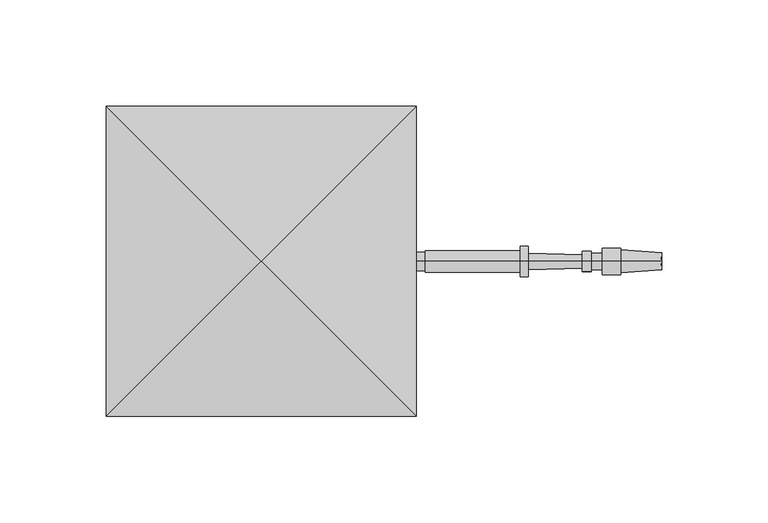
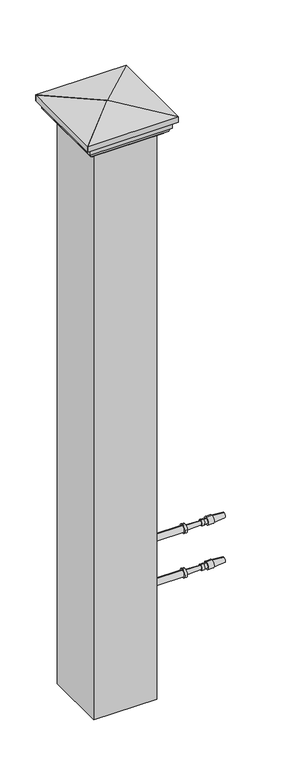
"""IFC4 building model written with IfcOpenShell, lengths in millimetres: railing geometry, RAILEASY CABLE RAILING CORNER TENSIONERS STAIR."""

from ifc_helpers import new_model, si_unit, point, frame, origin, place, context, project, spatial, polyline, circle_curve, ellipse_curve, trimmed, outline, extrude, source, transform, mapped, element, save
from ifc_brep_helpers import plane_surface, cylinder_surface, revolved_surface, advanced_brep


def railing_2a3e4459(model_context):
    return source(origin(), model_context, "Body", "SolidModel", [
        advanced_brep(
        [(1822.6288256, 16706.2866843, 32759.0282881), (1822.6288256, 16706.2866843, 32766.1720381), (1822.6288256, 16706.2866843, 32762.6001631), (1947.5727148, 16706.2866843, 32762.6001631), (1947.8683792, 16706.2866843, 32766.6246235), (1947.8683792, 16706.2866843, 32758.5757028), (1928.5250152, 16706.2866843, 32768.045719), (1928.5250152, 16706.2866843, 32757.1546072), (1928.5250152, 16706.2866843, 32768.9386877), (1928.5250152, 16706.2866843, 32756.2616385), (1919.892984, 16706.2866843, 32768.9386877), (1919.892984, 16706.2866843, 32756.2616385), (1919.892984, 16706.2866843, 32766.5574377), (1919.892984, 16706.2866843, 32758.6428885), (1914.5351715, 16706.2866843, 32766.5574377), (1914.5351715, 16706.2866843, 32758.6428885), (1914.5351715, 16706.2866843, 32767.3511877), (1914.5351715, 16706.2866843, 32757.8491385), (1910.4672027, 16706.2866843, 32767.3511877), (1910.4672027, 16706.2866843, 32757.8491385), (1910.4231156, 16706.2866843, 32765.7643), (1910.4231156, 16706.2866843, 32759.4360262), (1885.0329124, 16706.2866843, 32766.4696944), (1885.0329124, 16706.2866843, 32758.7306319), (1885.0329124, 16706.2866843, 32769.7439131), (1885.0329124, 16706.2866843, 32755.4564131), (1881.0641624, 16706.2866843, 32769.7439131), (1881.0641624, 16706.2866843, 32755.4564131), (1881.0641624, 16706.2866843, 32767.7595381), (1881.0641624, 16706.2866843, 32757.4407881), (1836.3165061, 16706.2866843, 32767.7595381), (1836.3165061, 16706.2866843, 32757.4407881), (1836.3165061, 16706.2866843, 32766.9657881), (1836.3165061, 16706.2866843, 32758.2345381), (1829.9665061, 16706.2866843, 32766.9657881), (1829.9665061, 16706.2866843, 32758.2345381), (1829.9665061, 16706.2866843, 32766.1720381), (1829.9665061, 16706.2866843, 32759.0282881)],
        [
            (0, 1, circle_curve(frame((1822.6288256, 16706.2866843, 32762.6001631), z_axis=(-1.0, 0.0, 0.0), x_axis=(0.0, 0.0, 1.0000000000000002)), 3.571875)),
            (1, 2),
            (2, 0),
            (1, 0, circle_curve(frame((1822.6288256, 16706.2866843, 32762.6001631), z_axis=(-1.0, 0.0, 0.0), x_axis=(0.0, 0.0, 1.0000000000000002)), 3.571875)),
            (3, 4),
            (4, 5, circle_curve(frame((1947.8683792, 16706.2866843, 32762.6001631), z_axis=(1.0, 0.0, 0.0), x_axis=(0.0, 0.0, 1.0000000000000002)), 4.0244604)),
            (5, 3),
            (5, 4, circle_curve(frame((1947.8683792, 16706.2866843, 32762.6001631), z_axis=(1.0, 0.0, 0.0), x_axis=(0.0, 0.0, 1.0000000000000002)), 4.0244604)),
            (4, 6),
            (6, 7, circle_curve(frame((1928.5250152, 16706.2866843, 32762.6001631), z_axis=(1.0, 0.0, 0.0), x_axis=(0.0, 0.0, 1.0000000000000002)), 5.4455559)),
            (7, 5),
            (7, 6, circle_curve(frame((1928.5250152, 16706.2866843, 32762.6001631), z_axis=(1.0, 0.0, 0.0), x_axis=(0.0, 0.0, 1.0000000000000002)), 5.4455559)),
            (6, 8),
            (8, 9, circle_curve(frame((1928.5250152, 16706.2866843, 32762.6001631), z_axis=(1.0, 0.0, 0.0), x_axis=(0.0, 0.0, 1.0000000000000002)), 6.3385246)),
            (9, 7),
            (9, 8, circle_curve(frame((1928.5250152, 16706.2866843, 32762.6001631), z_axis=(1.0, 0.0, 0.0), x_axis=(0.0, 0.0, 1.0000000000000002)), 6.3385246)),
            (8, 10),
            (10, 11, circle_curve(frame((1919.892984, 16706.2866843, 32762.6001631), z_axis=(1.0, 0.0, 0.0), x_axis=(0.0, 0.0, 1.0000000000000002)), 6.3385246)),
            (11, 9),
            (11, 10, circle_curve(frame((1919.892984, 16706.2866843, 32762.6001631), z_axis=(1.0, 0.0, 0.0), x_axis=(0.0, 0.0, 1.0000000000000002)), 6.3385246)),
            (10, 12),
            (12, 13, circle_curve(frame((1919.892984, 16706.2866843, 32762.6001631), z_axis=(1.0, 0.0, 0.0), x_axis=(0.0, 0.0, 1.0000000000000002)), 3.9572746)),
            (13, 11),
            (13, 12, circle_curve(frame((1919.892984, 16706.2866843, 32762.6001631), z_axis=(1.0, 0.0, 0.0), x_axis=(0.0, 0.0, 1.0000000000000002)), 3.9572746)),
            (12, 14),
            (14, 15, circle_curve(frame((1914.5351715, 16706.2866843, 32762.6001631), z_axis=(1.0, 0.0, 0.0), x_axis=(0.0, 0.0, 1.0000000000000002)), 3.9572746)),
            (15, 13),
            (15, 14, circle_curve(frame((1914.5351715, 16706.2866843, 32762.6001631), z_axis=(1.0, 0.0, 0.0), x_axis=(0.0, 0.0, 1.0000000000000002)), 3.9572746)),
            (14, 16),
            (16, 17, circle_curve(frame((1914.5351715, 16706.2866843, 32762.6001631), z_axis=(1.0, 0.0, 0.0), x_axis=(0.0, 0.0, 1.0000000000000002)), 4.7510246)),
            (17, 15),
            (17, 16, circle_curve(frame((1914.5351715, 16706.2866843, 32762.6001631), z_axis=(1.0, 0.0, 0.0), x_axis=(0.0, 0.0, 1.0000000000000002)), 4.7510246)),
            (16, 18),
            (18, 19, circle_curve(frame((1910.4672027, 16706.2866843, 32762.6001631), z_axis=(1.0, 0.0, 0.0), x_axis=(0.0, 0.0, 1.0000000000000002)), 4.7510246)),
            (19, 17),
            (19, 18, circle_curve(frame((1910.4672027, 16706.2866843, 32762.6001631), z_axis=(1.0, 0.0, 0.0), x_axis=(0.0, 0.0, 1.0000000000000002)), 4.7510246)),
            (18, 20),
            (20, 21, circle_curve(frame((1910.4231156, 16706.2866843, 32762.6001631), z_axis=(1.0, 0.0, 0.0), x_axis=(0.0, 0.0, 1.0000000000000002)), 3.1641369)),
            (21, 19),
            (21, 20, circle_curve(frame((1910.4231156, 16706.2866843, 32762.6001631), z_axis=(1.0, 0.0, 0.0), x_axis=(0.0, 0.0, 1.0000000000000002)), 3.1641369)),
            (20, 22),
            (22, 23, circle_curve(frame((1885.0329124, 16706.2866843, 32762.6001631), z_axis=(1.0, 0.0, 0.0), x_axis=(0.0, 0.0, 1.0000000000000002)), 3.8695313)),
            (23, 21),
            (23, 22, circle_curve(frame((1885.0329124, 16706.2866843, 32762.6001631), z_axis=(1.0, 0.0, 0.0), x_axis=(0.0, 0.0, 1.0000000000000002)), 3.8695313)),
            (22, 24),
            (24, 25, circle_curve(frame((1885.0329124, 16706.2866843, 32762.6001631), z_axis=(1.0, 0.0, 0.0), x_axis=(0.0, 0.0, 1.0000000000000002)), 7.14375)),
            (25, 23),
            (25, 24, circle_curve(frame((1885.0329124, 16706.2866843, 32762.6001631), z_axis=(1.0, 0.0, 0.0), x_axis=(0.0, 0.0, 1.0000000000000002)), 7.14375)),
            (24, 26),
            (26, 27, circle_curve(frame((1881.0641624, 16706.2866843, 32762.6001631), z_axis=(1.0, 0.0, 0.0), x_axis=(0.0, 0.0, 1.0000000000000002)), 7.14375)),
            (27, 25),
            (27, 26, circle_curve(frame((1881.0641624, 16706.2866843, 32762.6001631), z_axis=(1.0, 0.0, 0.0), x_axis=(0.0, 0.0, 1.0000000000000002)), 7.14375)),
            (26, 28),
            (28, 29, circle_curve(frame((1881.0641624, 16706.2866843, 32762.6001631), z_axis=(1.0, 0.0, 0.0), x_axis=(0.0, 0.0, 1.0000000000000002)), 5.159375)),
            (29, 27),
            (29, 28, circle_curve(frame((1881.0641624, 16706.2866843, 32762.6001631), z_axis=(1.0, 0.0, 0.0), x_axis=(0.0, 0.0, 1.0000000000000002)), 5.159375)),
            (28, 30),
            (30, 31, circle_curve(frame((1836.3165061, 16706.2866843, 32762.6001631), z_axis=(1.0, 0.0, 0.0), x_axis=(0.0, 0.0, 1.0000000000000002)), 5.159375)),
            (31, 29),
            (31, 30, circle_curve(frame((1836.3165061, 16706.2866843, 32762.6001631), z_axis=(1.0, 0.0, 0.0), x_axis=(0.0, 0.0, 1.0000000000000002)), 5.159375)),
            (30, 32),
            (32, 33, circle_curve(frame((1836.3165061, 16706.2866843, 32762.6001631), z_axis=(1.0, 0.0, 0.0), x_axis=(0.0, 0.0, 1.0000000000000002)), 4.365625)),
            (33, 31),
            (33, 32, circle_curve(frame((1836.3165061, 16706.2866843, 32762.6001631), z_axis=(1.0, 0.0, 0.0), x_axis=(0.0, 0.0, 1.0000000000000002)), 4.365625)),
            (32, 34),
            (34, 35, circle_curve(frame((1829.9665061, 16706.2866843, 32762.6001631), z_axis=(1.0, 0.0, 0.0), x_axis=(0.0, 0.0, 1.0000000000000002)), 4.365625)),
            (35, 33),
            (35, 34, circle_curve(frame((1829.9665061, 16706.2866843, 32762.6001631), z_axis=(1.0, 0.0, 0.0), x_axis=(0.0, 0.0, 1.0000000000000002)), 4.365625)),
            (34, 36),
            (36, 37, circle_curve(frame((1829.9665061, 16706.2866843, 32762.6001631), z_axis=(1.0, 0.0, 0.0), x_axis=(0.0, 0.0, 1.0000000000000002)), 3.571875)),
            (37, 35),
            (37, 36, circle_curve(frame((1829.9665061, 16706.2866843, 32762.6001631), z_axis=(1.0, 0.0, 0.0), x_axis=(0.0, 0.0, 1.0000000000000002)), 3.571875)),
            (36, 1),
            (0, 37),
        ],
        [
            plane_surface(frame((1822.6288256, 16706.2866843, 32762.6001631), z_axis=(-1.0, 0.0, 0.0), x_axis=(0.0, 0.0, 1.0))),
            revolved_surface(polyline([(1947.8683792, 16706.2866843, 32766.6246235), (1947.5727148, 16706.2866843, 32762.6001631)]), (1947.5727148, 16706.2866843, 32762.6001631), (1.0, 0.0, 0.0)),
            revolved_surface(polyline([(1928.5250152, 16706.2866843, 32768.045719), (1947.8683792, 16706.2866843, 32766.6246235)]), (1947.5727148, 16706.2866843, 32762.6001631), (1.0, 0.0, 0.0)),
            plane_surface(frame((1928.5250152, 16706.2866843, 32762.6001631), z_axis=(1.0, 0.0, 0.0), x_axis=(0.0, 0.0, 1.0))),
            cylinder_surface(frame((1947.5727148, 16706.2866843, 32762.6001631), z_axis=(1.0, 0.0, 0.0), x_axis=(0.0, 0.0, 1.0000000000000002)), 6.3385246),
            plane_surface(frame((1919.892984, 16706.2866843, 32762.6001631), z_axis=(-1.0, 0.0, 0.0), x_axis=(0.0, 0.0, 1.0))),
            cylinder_surface(frame((1947.5727148, 16706.2866843, 32762.6001631), z_axis=(1.0, 0.0, 0.0), x_axis=(0.0, 0.0, 1.0000000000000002)), 3.9572746),
            plane_surface(frame((1914.5351715, 16706.2866843, 32762.6001631), z_axis=(1.0, 0.0, 0.0), x_axis=(0.0, 0.0, 1.0))),
            cylinder_surface(frame((1947.5727148, 16706.2866843, 32762.6001631), z_axis=(1.0, 0.0, 0.0), x_axis=(0.0, 0.0, 1.0000000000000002)), 4.7510246),
            plane_surface(frame((1910.4231156, 16706.2866843, 32762.6001631), z_axis=(-1.0, 0.0, 0.0), x_axis=(0.0, 0.0, 1.0))),
            revolved_surface(polyline([(1885.0329124, 16706.2866843, 32766.4696944), (1910.4231156, 16706.2866843, 32765.7643)]), (1947.5727148, 16706.2866843, 32762.6001631), (1.0, 0.0, 0.0)),
            plane_surface(frame((1885.0329124, 16706.2866843, 32762.6001631), z_axis=(1.0, 0.0, 0.0), x_axis=(0.0, 0.0, 1.0))),
            cylinder_surface(frame((1947.5727148, 16706.2866843, 32762.6001631), z_axis=(1.0, 0.0, 0.0), x_axis=(0.0, 0.0, 1.0000000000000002)), 7.14375),
            plane_surface(frame((1881.0641624, 16706.2866843, 32762.6001631), z_axis=(-1.0, 0.0, 0.0), x_axis=(0.0, 0.0, 1.0))),
            cylinder_surface(frame((1947.5727148, 16706.2866843, 32762.6001631), z_axis=(1.0, 0.0, 0.0), x_axis=(0.0, 0.0, 1.0000000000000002)), 5.159375),
            plane_surface(frame((1836.3165061, 16706.2866843, 32762.6001631), z_axis=(-1.0, 0.0, 0.0), x_axis=(0.0, 0.0, 1.0))),
            cylinder_surface(frame((1947.5727148, 16706.2866843, 32762.6001631), z_axis=(1.0, 0.0, 0.0), x_axis=(0.0, 0.0, 1.0000000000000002)), 4.365625),
            plane_surface(frame((1829.9665061, 16706.2866843, 32762.6001631), z_axis=(-1.0, 0.0, 0.0), x_axis=(0.0, 0.0, 1.0))),
            cylinder_surface(frame((1947.5727148, 16706.2866843, 32762.6001631), z_axis=(1.0, 0.0, 0.0), x_axis=(0.0, 0.0, 1.0000000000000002)), 3.571875),
        ],
        [
            (0, [[1, 2, 3]]),
            (0, [[4, -3, -2]]),
            (1, [[5, 6, 7]]),
            (1, [[-7, 8, -5]]),
            (2, [[-6, 9, 10, 11]]),
            (2, [[-8, -11, 12, -9]]),
            (3, [[-10, 13, 14, 15]]),
            (3, [[-12, -15, 16, -13]]),
            (4, [[-14, 17, 18, 19]]),
            (4, [[-16, -19, 20, -17]]),
            (5, [[-18, 21, 22, 23]]),
            (5, [[-20, -23, 24, -21]]),
            (6, [[-22, 25, 26, 27]]),
            (6, [[-24, -27, 28, -25]]),
            (7, [[-26, 29, 30, 31]]),
            (7, [[-28, -31, 32, -29]]),
            (8, [[-30, 33, 34, 35]]),
            (8, [[-32, -35, 36, -33]]),
            (9, [[-34, 37, 38, 39]]),
            (9, [[-36, -39, 40, -37]]),
            (10, [[-38, 41, 42, 43]]),
            (10, [[-40, -43, 44, -41]]),
            (11, [[-42, 45, 46, 47]]),
            (11, [[-44, -47, 48, -45]]),
            (12, [[-46, 49, 50, 51]]),
            (12, [[-48, -51, 52, -49]]),
            (13, [[-50, 53, 54, 55]]),
            (13, [[-52, -55, 56, -53]]),
            (14, [[-54, 57, 58, 59]]),
            (14, [[-56, -59, 60, -57]]),
            (15, [[-58, 61, 62, 63]]),
            (15, [[-60, -63, 64, -61]]),
            (16, [[-62, 65, 66, 67]]),
            (16, [[-64, -67, 68, -65]]),
            (17, [[-66, 69, 70, 71]]),
            (17, [[-68, -71, 72, -69]]),
            (18, [[-70, 73, -1, 74]]),
            (18, [[-72, -74, -4, -73]]),
        ],
    ),
        advanced_brep(
        [(1809.936189, 16706.2866843, 32686.4001631), (1809.936189, 16706.2866843, 32667.3501631), (1809.936189, 16706.2866843, 32705.4501631), (1822.6288256, 16706.2866843, 32680.8769785), (1822.6288256, 16706.2866843, 32686.4001631), (1822.6288256, 16706.2866843, 32691.9233478), (1817.3527292, 16706.2866843, 32677.2720381), (1817.3527292, 16706.2866843, 32695.5282881), (1812.9871042, 16706.2866843, 32671.6458254), (1812.9871042, 16706.2866843, 32701.1545009), (1812.9871042, 16706.2866843, 32667.7762941), (1812.9871042, 16706.2866843, 32705.0240321), (1812.317439, 16706.2866843, 32667.3501631), (1812.317439, 16706.2866843, 32705.4501631)],
        [
            (0, 1),
            (1, 2, circle_curve(frame((1809.936189, 16706.2866843, 32686.4001631), z_axis=(-1.0, 0.0, 0.0), x_axis=(0.0, 0.0, 1.0)), 19.05)),
            (2, 0),
            (2, 1, circle_curve(frame((1809.936189, 16706.2866843, 32686.4001631), z_axis=(-1.0, 0.0, 0.0), x_axis=(0.0, 0.0, 1.0)), 19.05)),
            (3, 4),
            (4, 5),
            (5, 3, circle_curve(frame((1822.6288256, 16706.2866843, 32686.4001631), z_axis=(1.0, 0.0, 0.0), x_axis=(0.0, 0.0, 1.0)), 5.5231846)),
            (3, 5, circle_curve(frame((1822.6288256, 16706.2866843, 32686.4001631), z_axis=(1.0, 0.0, 0.0), x_axis=(0.0, 0.0, 1.0)), 5.5231846)),
            (6, 3, circle_curve(frame((1815.0283205, 16706.2866843, 32686.3374304), z_axis=(0.0, -1.0, 0.0), x_axis=(1.0, 0.0, 0.0)), 9.3586438)),
            (5, 7, circle_curve(frame((1815.0283205, 16706.2866843, 32686.4628958), z_axis=(0.0, -1.0, 0.0), x_axis=(1.0, 0.0, 0.0)), 9.3586438)),
            (7, 6, circle_curve(frame((1817.3527292, 16706.2866843, 32686.4001631), z_axis=(1.0, 0.0, 0.0), x_axis=(0.0, 0.0, 1.0)), 9.128125)),
            (6, 7, circle_curve(frame((1817.3527292, 16706.2866843, 32686.4001631), z_axis=(1.0, 0.0, 0.0), x_axis=(0.0, 0.0, 1.0)), 9.128125)),
            (8, 6, circle_curve(frame((1818.7953162, 16706.2866843, 32671.6458254), z_axis=(0.0, 1.0, 0.0), x_axis=(1.0, 0.0, 0.0)), 5.8082121)),
            (7, 9, circle_curve(frame((1818.7953162, 16706.2866843, 32701.1545009), z_axis=(0.0, 1.0, 0.0), x_axis=(1.0, 0.0, 0.0)), 5.8082121)),
            (9, 8, circle_curve(frame((1812.9871042, 16706.2866843, 32686.4001631), z_axis=(1.0, 0.0, 0.0), x_axis=(0.0, 0.0, 1.0)), 14.7543378)),
            (8, 9, circle_curve(frame((1812.9871042, 16706.2866843, 32686.4001631), z_axis=(1.0, 0.0, 0.0), x_axis=(0.0, 0.0, 1.0)), 14.7543378)),
            (10, 8),
            (9, 11),
            (11, 10, circle_curve(frame((1812.9871042, 16706.2866843, 32686.4001631), z_axis=(1.0, 0.0, 0.0), x_axis=(0.0, 0.0, 1.0)), 18.623869)),
            (10, 11, circle_curve(frame((1812.9871042, 16706.2866843, 32686.4001631), z_axis=(1.0, 0.0, 0.0), x_axis=(0.0, 0.0, 1.0)), 18.623869)),
            (12, 10),
            (11, 13),
            (13, 12, circle_curve(frame((1812.317439, 16706.2866843, 32686.4001631), z_axis=(1.0, 0.0, 0.0), x_axis=(0.0, 0.0, 1.0)), 19.05)),
            (12, 13, circle_curve(frame((1812.317439, 16706.2866843, 32686.4001631), z_axis=(1.0, 0.0, 0.0), x_axis=(0.0, 0.0, 1.0)), 19.05)),
            (1, 12),
            (13, 2),
        ],
        [
            plane_surface(frame((1809.936189, 16706.2866843, 32686.4001631), z_axis=(-1.0, 0.0, 0.0), x_axis=(0.0, 0.0, 1.0))),
            plane_surface(frame((1822.6288256, 16706.2866843, 32686.4001631), z_axis=(1.0, 0.0, 0.0), x_axis=(0.0, 0.0, 1.0))),
            revolved_surface(trimmed(ellipse_curve(frame((1815.0283205, 16706.2866843, 32686.4628958), z_axis=(0.0, -1.0, 0.0), x_axis=(1.0, 0.0, 0.0)), 9.3586438, 9.3586438), [point((1822.6288256, 16706.2866843, 32691.9233478))], [point((1817.3527292, 16706.2866843, 32695.5282881))], True, "CARTESIAN"), (1809.936189, 16706.2866843, 32686.4001631), (-1.0, 0.0, 0.0)),
            revolved_surface(trimmed(ellipse_curve(frame((1818.7953162, 16706.2866843, 32701.1545009), z_axis=(0.0, 1.0, 0.0), x_axis=(1.0, 0.0, 0.0)), 5.8082121, 5.8082121), [point((1817.3527292, 16706.2866843, 32695.5282881))], [point((1812.9871042, 16706.2866843, 32701.1545009))], True, "CARTESIAN"), (1809.936189, 16706.2866843, 32686.4001631), (-1.0, 0.0, 0.0)),
            plane_surface(frame((1812.9871042, 16706.2866843, 32686.4001631), z_axis=(1.0, 0.0, 0.0), x_axis=(0.0, 0.0, 1.0))),
            revolved_surface(polyline([(1812.9871042, 16706.2866843, 32705.0240321), (1812.317439, 16706.2866843, 32705.4501631)]), (1809.936189, 16706.2866843, 32686.4001631), (-1.0, 0.0, 0.0)),
            cylinder_surface(frame((1809.936189, 16706.2866843, 32686.4001631), z_axis=(-1.0, 0.0, 0.0), x_axis=(0.0, 0.0, 1.0)), 19.05),
        ],
        [
            (0, [[1, 2, 3]]),
            (0, [[-3, 4, -1]]),
            (1, [[5, 6, 7]]),
            (1, [[-6, -5, 8]]),
            (2, [[9, -7, 10, 11]]),
            (2, [[-10, -8, -9, 12]]),
            (3, [[13, -11, 14, 15]]),
            (3, [[-14, -12, -13, 16]]),
            (4, [[17, -15, 18, 19]]),
            (4, [[-18, -16, -17, 20]]),
            (5, [[21, -19, 22, 23]]),
            (5, [[-22, -20, -21, 24]]),
            (6, [[25, -23, 26, -2]]),
            (6, [[-26, -24, -25, -4]]),
        ],
    ),
        advanced_brep(
        [(1822.6288256, 16706.2866843, 32682.8282881), (1822.6288256, 16706.2866843, 32689.9720381), (1822.6288256, 16706.2866843, 32686.4001631), (1947.5727148, 16706.2866843, 32686.4001631), (1947.8683792, 16706.2866843, 32690.4246235), (1947.8683792, 16706.2866843, 32682.3757028), (1928.5250152, 16706.2866843, 32691.845719), (1928.5250152, 16706.2866843, 32680.9546072), (1928.5250152, 16706.2866843, 32692.7386877), (1928.5250152, 16706.2866843, 32680.0616385), (1919.892984, 16706.2866843, 32692.7386877), (1919.892984, 16706.2866843, 32680.0616385), (1919.892984, 16706.2866843, 32690.3574377), (1919.892984, 16706.2866843, 32682.4428885), (1914.5351715, 16706.2866843, 32690.3574377), (1914.5351715, 16706.2866843, 32682.4428885), (1914.5351715, 16706.2866843, 32691.1511877), (1914.5351715, 16706.2866843, 32681.6491385), (1910.4672027, 16706.2866843, 32691.1511877), (1910.4672027, 16706.2866843, 32681.6491385), (1910.4231156, 16706.2866843, 32689.5643), (1910.4231156, 16706.2866843, 32683.2360262), (1885.0329124, 16706.2866843, 32690.2696944), (1885.0329124, 16706.2866843, 32682.5306319), (1885.0329124, 16706.2866843, 32693.5439131), (1885.0329124, 16706.2866843, 32679.2564131), (1881.0641624, 16706.2866843, 32693.5439131), (1881.0641624, 16706.2866843, 32679.2564131), (1881.0641624, 16706.2866843, 32691.5595381), (1881.0641624, 16706.2866843, 32681.2407881), (1836.3165061, 16706.2866843, 32691.5595381), (1836.3165061, 16706.2866843, 32681.2407881), (1836.3165061, 16706.2866843, 32690.7657881), (1836.3165061, 16706.2866843, 32682.0345381), (1829.9665061, 16706.2866843, 32690.7657881), (1829.9665061, 16706.2866843, 32682.0345381), (1829.9665061, 16706.2866843, 32689.9720381), (1829.9665061, 16706.2866843, 32682.8282881)],
        [
            (0, 1, circle_curve(frame((1822.6288256, 16706.2866843, 32686.4001631), z_axis=(-1.0, 0.0, 0.0), x_axis=(0.0, 0.0, 1.0000000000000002)), 3.571875)),
            (1, 2),
            (2, 0),
            (1, 0, circle_curve(frame((1822.6288256, 16706.2866843, 32686.4001631), z_axis=(-1.0, 0.0, 0.0), x_axis=(0.0, 0.0, 1.0000000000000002)), 3.571875)),
            (3, 4),
            (4, 5, circle_curve(frame((1947.8683792, 16706.2866843, 32686.4001631), z_axis=(1.0, 0.0, 0.0), x_axis=(0.0, 0.0, 1.0000000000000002)), 4.0244604)),
            (5, 3),
            (5, 4, circle_curve(frame((1947.8683792, 16706.2866843, 32686.4001631), z_axis=(1.0, 0.0, 0.0), x_axis=(0.0, 0.0, 1.0000000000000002)), 4.0244604)),
            (4, 6),
            (6, 7, circle_curve(frame((1928.5250152, 16706.2866843, 32686.4001631), z_axis=(1.0, 0.0, 0.0), x_axis=(0.0, 0.0, 1.0000000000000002)), 5.4455559)),
            (7, 5),
            (7, 6, circle_curve(frame((1928.5250152, 16706.2866843, 32686.4001631), z_axis=(1.0, 0.0, 0.0), x_axis=(0.0, 0.0, 1.0000000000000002)), 5.4455559)),
            (6, 8),
            (8, 9, circle_curve(frame((1928.5250152, 16706.2866843, 32686.4001631), z_axis=(1.0, 0.0, 0.0), x_axis=(0.0, 0.0, 1.0000000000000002)), 6.3385246)),
            (9, 7),
            (9, 8, circle_curve(frame((1928.5250152, 16706.2866843, 32686.4001631), z_axis=(1.0, 0.0, 0.0), x_axis=(0.0, 0.0, 1.0000000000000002)), 6.3385246)),
            (8, 10),
            (10, 11, circle_curve(frame((1919.892984, 16706.2866843, 32686.4001631), z_axis=(1.0, 0.0, 0.0), x_axis=(0.0, 0.0, 1.0000000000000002)), 6.3385246)),
            (11, 9),
            (11, 10, circle_curve(frame((1919.892984, 16706.2866843, 32686.4001631), z_axis=(1.0, 0.0, 0.0), x_axis=(0.0, 0.0, 1.0000000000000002)), 6.3385246)),
            (10, 12),
            (12, 13, circle_curve(frame((1919.892984, 16706.2866843, 32686.4001631), z_axis=(1.0, 0.0, 0.0), x_axis=(0.0, 0.0, 1.0000000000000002)), 3.9572746)),
            (13, 11),
            (13, 12, circle_curve(frame((1919.892984, 16706.2866843, 32686.4001631), z_axis=(1.0, 0.0, 0.0), x_axis=(0.0, 0.0, 1.0000000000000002)), 3.9572746)),
            (12, 14),
            (14, 15, circle_curve(frame((1914.5351715, 16706.2866843, 32686.4001631), z_axis=(1.0, 0.0, 0.0), x_axis=(0.0, 0.0, 1.0000000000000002)), 3.9572746)),
            (15, 13),
            (15, 14, circle_curve(frame((1914.5351715, 16706.2866843, 32686.4001631), z_axis=(1.0, 0.0, 0.0), x_axis=(0.0, 0.0, 1.0000000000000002)), 3.9572746)),
            (14, 16),
            (16, 17, circle_curve(frame((1914.5351715, 16706.2866843, 32686.4001631), z_axis=(1.0, 0.0, 0.0), x_axis=(0.0, 0.0, 1.0000000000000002)), 4.7510246)),
            (17, 15),
            (17, 16, circle_curve(frame((1914.5351715, 16706.2866843, 32686.4001631), z_axis=(1.0, 0.0, 0.0), x_axis=(0.0, 0.0, 1.0000000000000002)), 4.7510246)),
            (16, 18),
            (18, 19, circle_curve(frame((1910.4672027, 16706.2866843, 32686.4001631), z_axis=(1.0, 0.0, 0.0), x_axis=(0.0, 0.0, 1.0000000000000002)), 4.7510246)),
            (19, 17),
            (19, 18, circle_curve(frame((1910.4672027, 16706.2866843, 32686.4001631), z_axis=(1.0, 0.0, 0.0), x_axis=(0.0, 0.0, 1.0000000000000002)), 4.7510246)),
            (18, 20),
            (20, 21, circle_curve(frame((1910.4231156, 16706.2866843, 32686.4001631), z_axis=(1.0, 0.0, 0.0), x_axis=(0.0, 0.0, 1.0000000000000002)), 3.1641369)),
            (21, 19),
            (21, 20, circle_curve(frame((1910.4231156, 16706.2866843, 32686.4001631), z_axis=(1.0, 0.0, 0.0), x_axis=(0.0, 0.0, 1.0000000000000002)), 3.1641369)),
            (20, 22),
            (22, 23, circle_curve(frame((1885.0329124, 16706.2866843, 32686.4001631), z_axis=(1.0, 0.0, 0.0), x_axis=(0.0, 0.0, 1.0000000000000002)), 3.8695313)),
            (23, 21),
            (23, 22, circle_curve(frame((1885.0329124, 16706.2866843, 32686.4001631), z_axis=(1.0, 0.0, 0.0), x_axis=(0.0, 0.0, 1.0000000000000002)), 3.8695313)),
            (22, 24),
            (24, 25, circle_curve(frame((1885.0329124, 16706.2866843, 32686.4001631), z_axis=(1.0, 0.0, 0.0), x_axis=(0.0, 0.0, 1.0000000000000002)), 7.14375)),
            (25, 23),
            (25, 24, circle_curve(frame((1885.0329124, 16706.2866843, 32686.4001631), z_axis=(1.0, 0.0, 0.0), x_axis=(0.0, 0.0, 1.0000000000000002)), 7.14375)),
            (24, 26),
            (26, 27, circle_curve(frame((1881.0641624, 16706.2866843, 32686.4001631), z_axis=(1.0, 0.0, 0.0), x_axis=(0.0, 0.0, 1.0000000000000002)), 7.14375)),
            (27, 25),
            (27, 26, circle_curve(frame((1881.0641624, 16706.2866843, 32686.4001631), z_axis=(1.0, 0.0, 0.0), x_axis=(0.0, 0.0, 1.0000000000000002)), 7.14375)),
            (26, 28),
            (28, 29, circle_curve(frame((1881.0641624, 16706.2866843, 32686.4001631), z_axis=(1.0, 0.0, 0.0), x_axis=(0.0, 0.0, 1.0000000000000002)), 5.159375)),
            (29, 27),
            (29, 28, circle_curve(frame((1881.0641624, 16706.2866843, 32686.4001631), z_axis=(1.0, 0.0, 0.0), x_axis=(0.0, 0.0, 1.0000000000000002)), 5.159375)),
            (28, 30),
            (30, 31, circle_curve(frame((1836.3165061, 16706.2866843, 32686.4001631), z_axis=(1.0, 0.0, 0.0), x_axis=(0.0, 0.0, 1.0000000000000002)), 5.159375)),
            (31, 29),
            (31, 30, circle_curve(frame((1836.3165061, 16706.2866843, 32686.4001631), z_axis=(1.0, 0.0, 0.0), x_axis=(0.0, 0.0, 1.0000000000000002)), 5.159375)),
            (30, 32),
            (32, 33, circle_curve(frame((1836.3165061, 16706.2866843, 32686.4001631), z_axis=(1.0, 0.0, 0.0), x_axis=(0.0, 0.0, 1.0000000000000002)), 4.365625)),
            (33, 31),
            (33, 32, circle_curve(frame((1836.3165061, 16706.2866843, 32686.4001631), z_axis=(1.0, 0.0, 0.0), x_axis=(0.0, 0.0, 1.0000000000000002)), 4.365625)),
            (32, 34),
            (34, 35, circle_curve(frame((1829.9665061, 16706.2866843, 32686.4001631), z_axis=(1.0, 0.0, 0.0), x_axis=(0.0, 0.0, 1.0000000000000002)), 4.365625)),
            (35, 33),
            (35, 34, circle_curve(frame((1829.9665061, 16706.2866843, 32686.4001631), z_axis=(1.0, 0.0, 0.0), x_axis=(0.0, 0.0, 1.0000000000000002)), 4.365625)),
            (34, 36),
            (36, 37, circle_curve(frame((1829.9665061, 16706.2866843, 32686.4001631), z_axis=(1.0, 0.0, 0.0), x_axis=(0.0, 0.0, 1.0000000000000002)), 3.571875)),
            (37, 35),
            (37, 36, circle_curve(frame((1829.9665061, 16706.2866843, 32686.4001631), z_axis=(1.0, 0.0, 0.0), x_axis=(0.0, 0.0, 1.0000000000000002)), 3.571875)),
            (36, 1),
            (0, 37),
        ],
        [
            plane_surface(frame((1822.6288256, 16706.2866843, 32686.4001631), z_axis=(-1.0, 0.0, 0.0), x_axis=(0.0, 0.0, 1.0))),
            revolved_surface(polyline([(1947.8683792, 16706.2866843, 32690.4246235), (1947.5727148, 16706.2866843, 32686.4001631)]), (1947.5727148, 16706.2866843, 32686.4001631), (1.0, 0.0, 0.0)),
            revolved_surface(polyline([(1928.5250152, 16706.2866843, 32691.845719), (1947.8683792, 16706.2866843, 32690.4246235)]), (1947.5727148, 16706.2866843, 32686.4001631), (1.0, 0.0, 0.0)),
            plane_surface(frame((1928.5250152, 16706.2866843, 32686.4001631), z_axis=(1.0, 0.0, 0.0), x_axis=(0.0, 0.0, 1.0))),
            cylinder_surface(frame((1947.5727148, 16706.2866843, 32686.4001631), z_axis=(1.0, 0.0, 0.0), x_axis=(0.0, 0.0, 1.0000000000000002)), 6.3385246),
            plane_surface(frame((1919.892984, 16706.2866843, 32686.4001631), z_axis=(-1.0, 0.0, 0.0), x_axis=(0.0, 0.0, 1.0))),
            cylinder_surface(frame((1947.5727148, 16706.2866843, 32686.4001631), z_axis=(1.0, 0.0, 0.0), x_axis=(0.0, 0.0, 1.0000000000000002)), 3.9572746),
            plane_surface(frame((1914.5351715, 16706.2866843, 32686.4001631), z_axis=(1.0, 0.0, 0.0), x_axis=(0.0, 0.0, 1.0))),
            cylinder_surface(frame((1947.5727148, 16706.2866843, 32686.4001631), z_axis=(1.0, 0.0, 0.0), x_axis=(0.0, 0.0, 1.0000000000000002)), 4.7510246),
            plane_surface(frame((1910.4231156, 16706.2866843, 32686.4001631), z_axis=(-1.0, 0.0, 0.0), x_axis=(0.0, 0.0, 1.0))),
            revolved_surface(polyline([(1885.0329124, 16706.2866843, 32690.2696944), (1910.4231156, 16706.2866843, 32689.5643)]), (1947.5727148, 16706.2866843, 32686.4001631), (1.0, 0.0, 0.0)),
            plane_surface(frame((1885.0329124, 16706.2866843, 32686.4001631), z_axis=(1.0, 0.0, 0.0), x_axis=(0.0, 0.0, 1.0))),
            cylinder_surface(frame((1947.5727148, 16706.2866843, 32686.4001631), z_axis=(1.0, 0.0, 0.0), x_axis=(0.0, 0.0, 1.0000000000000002)), 7.14375),
            plane_surface(frame((1881.0641624, 16706.2866843, 32686.4001631), z_axis=(-1.0, 0.0, 0.0), x_axis=(0.0, 0.0, 1.0))),
            cylinder_surface(frame((1947.5727148, 16706.2866843, 32686.4001631), z_axis=(1.0, 0.0, 0.0), x_axis=(0.0, 0.0, 1.0000000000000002)), 5.159375),
            plane_surface(frame((1836.3165061, 16706.2866843, 32686.4001631), z_axis=(-1.0, 0.0, 0.0), x_axis=(0.0, 0.0, 1.0))),
            cylinder_surface(frame((1947.5727148, 16706.2866843, 32686.4001631), z_axis=(1.0, 0.0, 0.0), x_axis=(0.0, 0.0, 1.0000000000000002)), 4.365625),
            plane_surface(frame((1829.9665061, 16706.2866843, 32686.4001631), z_axis=(-1.0, 0.0, 0.0), x_axis=(0.0, 0.0, 1.0))),
            cylinder_surface(frame((1947.5727148, 16706.2866843, 32686.4001631), z_axis=(1.0, 0.0, 0.0), x_axis=(0.0, 0.0, 1.0000000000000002)), 3.571875),
        ],
        [
            (0, [[1, 2, 3]]),
            (0, [[4, -3, -2]]),
            (1, [[5, 6, 7]]),
            (1, [[-7, 8, -5]]),
            (2, [[-6, 9, 10, 11]]),
            (2, [[-8, -11, 12, -9]]),
            (3, [[-10, 13, 14, 15]]),
            (3, [[-12, -15, 16, -13]]),
            (4, [[-14, 17, 18, 19]]),
            (4, [[-16, -19, 20, -17]]),
            (5, [[-18, 21, 22, 23]]),
            (5, [[-20, -23, 24, -21]]),
            (6, [[-22, 25, 26, 27]]),
            (6, [[-24, -27, 28, -25]]),
            (7, [[-26, 29, 30, 31]]),
            (7, [[-28, -31, 32, -29]]),
            (8, [[-30, 33, 34, 35]]),
            (8, [[-32, -35, 36, -33]]),
            (9, [[-34, 37, 38, 39]]),
            (9, [[-36, -39, 40, -37]]),
            (10, [[-38, 41, 42, 43]]),
            (10, [[-40, -43, 44, -41]]),
            (11, [[-42, 45, 46, 47]]),
            (11, [[-44, -47, 48, -45]]),
            (12, [[-46, 49, 50, 51]]),
            (12, [[-48, -51, 52, -49]]),
            (13, [[-50, 53, 54, 55]]),
            (13, [[-52, -55, 56, -53]]),
            (14, [[-54, 57, 58, 59]]),
            (14, [[-56, -59, 60, -57]]),
            (15, [[-58, 61, 62, 63]]),
            (15, [[-60, -63, 64, -61]]),
            (16, [[-62, 65, 66, 67]]),
            (16, [[-64, -67, 68, -65]]),
            (17, [[-66, 69, 70, 71]]),
            (17, [[-68, -71, 72, -69]]),
            (18, [[-70, 73, -1, 74]]),
            (18, [[-72, -74, -4, -73]]),
        ],
    ),
        extrude(outline(polyline([(1708.3188898, 16655.4866843), (1708.3188898, 16757.0866843), (1809.9188898, 16757.0866843), (1809.9188898, 16655.4866843), (1708.3188898, 16655.4866843)])), frame((0.0, 0.0, 32527.3789062), z_axis=(0.0, 0.0, 1.0), x_axis=(1.0, 0.0, 0.0)), (0.0, 0.0, 1.0), 965.2),
        advanced_brep(
        [(1686.0938898, 16779.3116843, 33527.5039062), (1759.1188898, 16706.2866843, 33537.0289063), (1832.1438898, 16779.3116843, 33527.5039062), (1686.0938898, 16779.3116843, 33517.9789062), (1832.1438898, 16779.3116843, 33517.9789062), (1692.4438898, 16772.9616843, 33517.9789062), (1825.7938898, 16772.9616843, 33517.9789062), (1692.4438898, 16772.9616843, 33506.8203026), (1825.7938898, 16772.9616843, 33506.8203026), (1696.1149835, 16769.2905905, 33500.5164062), (1822.122796, 16769.2905905, 33500.5164062), (1699.2899835, 16766.1155905, 33500.5164062), (1818.947796, 16766.1155905, 33500.5164062), (1705.6399835, 16759.7655905, 33494.1664062), (1812.597796, 16759.7655905, 33494.1664062), (1705.6399835, 16759.7655905, 33492.5789063), (1812.597796, 16759.7655905, 33492.5789063), (1759.1188898, 16706.2866843, 33492.5789063)],
        [
            (0, 1),
            (1, 2),
            (2, 0),
            (3, 0),
            (2, 4),
            (4, 3),
            (5, 3),
            (4, 6),
            (6, 5),
            (7, 5),
            (6, 8),
            (8, 7),
            (9, 7, ellipse_curve(frame((1683.4149835, 16781.9905905, 33497.3414063), z_axis=(-0.7071067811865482, -0.7071067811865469, 0.0), x_axis=(-0.7071067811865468, 0.7071067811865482, 0.0)), 18.5132723, 13.0908604)),
            (8, 10, ellipse_curve(frame((1834.822796, 16781.9905905, 33497.3414063), z_axis=(0.7071067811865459, -0.7071067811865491, 0.0), x_axis=(-0.7071067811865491, -0.7071067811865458, 0.0)), 18.5132723, 13.0908604)),
            (10, 9),
            (11, 9),
            (10, 12),
            (12, 11),
            (13, 11, ellipse_curve(frame((1705.6399835, 16759.7655905, 33500.5164062), z_axis=(0.7071067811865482, 0.7071067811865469, 0.0), x_axis=(0.7071067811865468, -0.7071067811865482, 0.0)), 8.9802561, 6.35)),
            (12, 14, ellipse_curve(frame((1812.597796, 16759.7655905, 33500.5164062), z_axis=(-0.7071067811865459, 0.7071067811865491, 0.0), x_axis=(0.7071067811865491, 0.7071067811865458, 0.0)), 8.9802561, 6.35)),
            (14, 13),
            (15, 13),
            (14, 16),
            (16, 15),
            (17, 15),
            (16, 17),
            (17, 1),
        ],
        [
            plane_surface(frame((1876.3205985, 16779.3116843, 33527.5039062), z_axis=(0.0, 0.12933918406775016, 0.9916004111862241), x_axis=(-1.0, 0.0, 0.0))),
            plane_surface(frame((1876.3205985, 16779.3116843, 33517.9789062), z_axis=(0.0, 1.0, 0.0), x_axis=(-1.0, 0.0, 0.0))),
            plane_surface(frame((1876.3205985, 16772.9616843, 33517.9789062), z_axis=(0.0, 0.0, -1.0), x_axis=(-1.0, 0.0, 0.0))),
            plane_surface(frame((1876.3205985, 16772.9616843, 33506.8203026), z_axis=(0.0, 1.0, 0.0), x_axis=(-1.0, 0.0, 0.0))),
            revolved_surface(polyline([(1670.324123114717, 16768.8997301, 33497.3414063), (1847.913656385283, 16768.8997301, 33497.3414063)]), (1649.8253104, 16781.9905905, 33497.3414063), (-1.0, 0.0, 0.0)),
            plane_surface(frame((1876.3205985, 16766.1155905, 33500.5164062), z_axis=(0.0, 0.0, -1.0), x_axis=(-1.0, 0.0, 0.0))),
            cylinder_surface(frame((1649.8253104, 16759.7655905, 33500.5164062), z_axis=(1.0, 0.0, 0.0), x_axis=(0.0, -1.0, 0.0)), 6.35),
            plane_surface(frame((1876.3205985, 16759.7655905, 33492.5789063), z_axis=(0.0, 1.0, 0.0), x_axis=(-1.0, 0.0, 0.0))),
            plane_surface(frame((1876.3205985, 16706.2866843, 33492.5789063), z_axis=(0.0, 0.0, -1.0), x_axis=(-1.0, 0.0, 0.0))),
            plane_surface(frame((1759.1188898, 16706.2866843, 33721.1789063), z_axis=(-0.7071067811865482, -0.7071067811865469, 0.0), x_axis=(0.0, 0.0, -1.0))),
            plane_surface(frame((1892.4688898, 16839.6366843, 33721.1789063), z_axis=(0.7071067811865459, -0.7071067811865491, 0.0), x_axis=(0.0, 0.0, -1.0))),
        ],
        [
            (0, [[1, 2, 3]]),
            (1, [[4, -3, 5, 6]]),
            (2, [[7, -6, 8, 9]]),
            (3, [[10, -9, 11, 12]]),
            (4, [[13, -12, 14, 15]]),
            (5, [[16, -15, 17, 18]]),
            (6, [[19, -18, 20, 21]]),
            (7, [[22, -21, 23, 24]]),
            (8, [[25, -24, 26]]),
            (9, [[-1, -4, -7, -10, -13, -16, -19, -22, -25, 27]]),
            (10, [[-2, -27, -26, -23, -20, -17, -14, -11, -8, -5]]),
        ],
    ),
        advanced_brep(
        [(1759.1188898, 16706.2866843, 33537.0289063), (1686.0938898, 16633.2616843, 33527.5039062), (1832.1438898, 16633.2616843, 33527.5039062), (1686.0938898, 16633.2616843, 33517.9789062), (1832.1438898, 16633.2616843, 33517.9789062), (1692.4438898, 16639.6116843, 33517.9789062), (1825.7938898, 16639.6116843, 33517.9789062), (1692.4438898, 16639.6116843, 33506.8203026), (1825.7938898, 16639.6116843, 33506.8203026), (1696.1149835, 16643.282778, 33500.5164062), (1822.122796, 16643.282778, 33500.5164062), (1699.2899835, 16646.457778, 33500.5164062), (1818.947796, 16646.457778, 33500.5164062), (1705.6399835, 16652.807778, 33494.1664062), (1812.597796, 16652.807778, 33494.1664062), (1705.6399835, 16652.807778, 33492.5789063), (1812.597796, 16652.807778, 33492.5789063), (1759.1188898, 16706.2866843, 33492.5789063)],
        [
            (0, 1),
            (1, 2),
            (2, 0),
            (1, 3),
            (3, 4),
            (4, 2),
            (3, 5),
            (5, 6),
            (6, 4),
            (5, 7),
            (7, 8),
            (8, 6),
            (7, 9, ellipse_curve(frame((1683.4149835, 16630.582778, 33497.3414063), z_axis=(-0.7071067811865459, 0.7071067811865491, 0.0), x_axis=(-0.7071067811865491, -0.7071067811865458, 0.0)), 18.5132723, 13.0908604)),
            (9, 10),
            (10, 8, ellipse_curve(frame((1834.822796, 16630.582778, 33497.3414063), z_axis=(0.7071067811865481, 0.7071067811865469, 0.0), x_axis=(-0.7071067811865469, 0.707106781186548, 0.0)), 18.5132723, 13.0908604)),
            (9, 11),
            (11, 12),
            (12, 10),
            (11, 13, ellipse_curve(frame((1705.6399835, 16652.807778, 33500.5164062), z_axis=(0.7071067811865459, -0.7071067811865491, 0.0), x_axis=(0.7071067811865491, 0.7071067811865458, 0.0)), 8.9802561, 6.35)),
            (13, 14),
            (14, 12, ellipse_curve(frame((1812.597796, 16652.807778, 33500.5164062), z_axis=(-0.7071067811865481, -0.7071067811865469, 0.0), x_axis=(0.7071067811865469, -0.707106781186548, 0.0)), 8.9802561, 6.35)),
            (13, 15),
            (15, 16),
            (16, 14),
            (15, 17),
            (17, 16),
            (0, 17),
        ],
        [
            plane_surface(frame((1876.3205985, 16706.2866843, 33537.0289063), z_axis=(0.0, -0.12933918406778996, 0.9916004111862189), x_axis=(-1.0, 0.0, 0.0))),
            plane_surface(frame((1876.3205985, 16633.2616843, 33527.5039062), z_axis=(0.0, -1.0, 0.0), x_axis=(-1.0, 0.0, 0.0))),
            plane_surface(frame((1876.3205985, 16633.2616843, 33517.9789062), z_axis=(0.0, 0.0, -1.0), x_axis=(-1.0, 0.0, 0.0))),
            plane_surface(frame((1876.3205985, 16639.6116843, 33517.9789062), z_axis=(0.0, -1.0, 0.0), x_axis=(-1.0, 0.0, 0.0))),
            revolved_surface(polyline([(1670.324123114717, 16643.6736384, 33497.3414063), (1847.913656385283, 16643.6736384, 33497.3414063)]), (1649.8253104, 16630.582778, 33497.3414063), (-1.0, 0.0, 0.0)),
            plane_surface(frame((1876.3205985, 16643.282778, 33500.5164062), z_axis=(0.0, 0.0, -1.0), x_axis=(-1.0, 0.0, 0.0))),
            cylinder_surface(frame((1649.8253104, 16652.807778, 33500.5164062), z_axis=(1.0, 0.0, 0.0), x_axis=(0.0, 1.0, 0.0)), 6.35),
            plane_surface(frame((1876.3205985, 16652.807778, 33494.1664062), z_axis=(0.0, -1.0, 0.0), x_axis=(-1.0, 0.0, 0.0))),
            plane_surface(frame((1876.3205985, 16652.807778, 33492.5789063), z_axis=(0.0, 0.0, -1.0), x_axis=(-1.0, 0.0, 0.0))),
            plane_surface(frame((1649.8253104, 16596.9931049, 33721.1789063), z_axis=(-0.7071067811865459, 0.7071067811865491, 0.0), x_axis=(0.0, 0.0, -1.0))),
            plane_surface(frame((1759.1188898, 16706.2866843, 33721.1789063), z_axis=(0.7071067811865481, 0.7071067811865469, 0.0), x_axis=(0.0, 0.0, -1.0))),
        ],
        [
            (0, [[1, 2, 3]]),
            (1, [[4, 5, 6, -2]]),
            (2, [[7, 8, 9, -5]]),
            (3, [[10, 11, 12, -8]]),
            (4, [[13, 14, 15, -11]]),
            (5, [[16, 17, 18, -14]]),
            (6, [[19, 20, 21, -17]]),
            (7, [[22, 23, 24, -20]]),
            (8, [[25, 26, -23]]),
            (9, [[-1, 27, -25, -22, -19, -16, -13, -10, -7, -4]]),
            (10, [[-3, -6, -9, -12, -15, -18, -21, -24, -26, -27]]),
        ],
    ),
        advanced_brep(
        [(1759.1188898, 16706.2866843, 33537.0289063), (1686.0938898, 16779.3116843, 33527.5039062), (1686.0938898, 16633.2616843, 33527.5039062), (1686.0938898, 16779.3116843, 33517.9789062), (1686.0938898, 16633.2616843, 33517.9789062), (1692.4438898, 16772.9616843, 33517.9789062), (1692.4438898, 16639.6116843, 33517.9789062), (1692.4438898, 16772.9616843, 33506.8203026), (1692.4438898, 16639.6116843, 33506.8203026), (1696.1149835, 16769.2905905, 33500.5164062), (1696.1149835, 16643.282778, 33500.5164062), (1699.2899835, 16766.1155905, 33500.5164062), (1699.2899835, 16646.457778, 33500.5164062), (1705.6399835, 16759.7655905, 33494.1664062), (1705.6399835, 16652.807778, 33494.1664062), (1705.6399835, 16759.7655905, 33492.5789063), (1705.6399835, 16652.807778, 33492.5789063), (1759.1188898, 16706.2866843, 33492.5789063)],
        [
            (0, 1),
            (1, 2),
            (2, 0),
            (1, 3),
            (3, 4),
            (4, 2),
            (3, 5),
            (5, 6),
            (6, 4),
            (5, 7),
            (7, 8),
            (8, 6),
            (7, 9, ellipse_curve(frame((1683.4149835, 16781.9905905, 33497.3414063), z_axis=(0.707106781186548, 0.7071067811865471, 0.0), x_axis=(0.7071067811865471, -0.7071067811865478, 0.0)), 18.5132723, 13.0908604)),
            (9, 10),
            (10, 8, ellipse_curve(frame((1683.4149835, 16630.582778, 33497.3414063), z_axis=(0.707106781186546, -0.707106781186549, 0.0), x_axis=(-0.707106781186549, -0.707106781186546, 0.0)), 18.5132723, 13.0908604)),
            (9, 11),
            (11, 12),
            (12, 10),
            (11, 13, ellipse_curve(frame((1705.6399835, 16759.7655905, 33500.5164062), z_axis=(-0.707106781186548, -0.7071067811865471, 0.0), x_axis=(-0.7071067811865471, 0.7071067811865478, 0.0)), 8.9802561, 6.35)),
            (13, 14),
            (14, 12, ellipse_curve(frame((1705.6399835, 16652.807778, 33500.5164062), z_axis=(-0.707106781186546, 0.707106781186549, 0.0), x_axis=(0.707106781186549, 0.707106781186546, 0.0)), 8.9802561, 6.35)),
            (13, 15),
            (15, 16),
            (16, 14),
            (15, 17),
            (17, 16),
            (0, 17),
        ],
        [
            plane_surface(frame((1686.0938898, 16823.488393, 33527.5039062), z_axis=(-0.1293391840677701, 0.0, 0.9916004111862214), x_axis=(0.0, -1.0, 0.0))),
            plane_surface(frame((1686.0938898, 16823.488393, 33517.9789062), z_axis=(-1.0, 0.0, 0.0), x_axis=(0.0, -1.0, 0.0))),
            plane_surface(frame((1692.4438898, 16823.488393, 33517.9789062), z_axis=(0.0, 0.0, -1.0), x_axis=(0.0, -1.0, 0.0))),
            plane_surface(frame((1692.4438898, 16823.488393, 33506.8203026), z_axis=(-1.0, 0.0, 0.0), x_axis=(0.0, -1.0, 0.0))),
            revolved_surface(polyline([(1696.5058439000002, 16617.491917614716, 33497.3414063), (1696.5058439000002, 16795.081450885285, 33497.3414063)]), (1683.4149835, 16596.9931049, 33497.3414063), (0.0, -1.0, 0.0)),
            plane_surface(frame((1699.2899835, 16823.488393, 33500.5164062), z_axis=(0.0, 0.0, -1.0), x_axis=(0.0, -1.0, 0.0))),
            cylinder_surface(frame((1705.6399835, 16596.9931049, 33500.5164062), z_axis=(0.0, 1.0, 0.0), x_axis=(1.0, 0.0, 0.0)), 6.35),
            plane_surface(frame((1705.6399835, 16823.488393, 33492.5789063), z_axis=(-1.0, 0.0, 0.0), x_axis=(0.0, -1.0, 0.0))),
            plane_surface(frame((1759.1188898, 16823.488393, 33492.5789063), z_axis=(0.0, 0.0, -1.0), x_axis=(0.0, -1.0, 0.0))),
            plane_surface(frame((1641.9171811, 16823.488393, 33721.1789063), z_axis=(0.707106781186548, 0.7071067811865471, 0.0), x_axis=(0.0, 0.0, -1.0))),
            plane_surface(frame((1759.1188898, 16706.2866843, 33721.1789063), z_axis=(0.707106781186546, -0.707106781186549, 0.0), x_axis=(0.0, 0.0, -1.0))),
        ],
        [
            (0, [[1, 2, 3]]),
            (1, [[4, 5, 6, -2]]),
            (2, [[7, 8, 9, -5]]),
            (3, [[10, 11, 12, -8]]),
            (4, [[13, 14, 15, -11]]),
            (5, [[16, 17, 18, -14]]),
            (6, [[19, 20, 21, -17]]),
            (7, [[22, 23, 24, -20]]),
            (8, [[25, 26, -23]]),
            (9, [[-1, 27, -25, -22, -19, -16, -13, -10, -7, -4]]),
            (10, [[-3, -6, -9, -12, -15, -18, -21, -24, -26, -27]]),
        ],
    ),
        advanced_brep(
        [(1832.1438898, 16779.3116843, 33527.5039062), (1759.1188898, 16706.2866843, 33537.0289063), (1832.1438898, 16633.2616843, 33527.5039062), (1832.1438898, 16779.3116843, 33517.9789062), (1832.1438898, 16633.2616843, 33517.9789062), (1825.7938898, 16772.9616843, 33517.9789062), (1825.7938898, 16639.6116843, 33517.9789062), (1825.7938898, 16772.9616843, 33506.8203026), (1825.7938898, 16639.6116843, 33506.8203026), (1822.122796, 16769.2905905, 33500.5164062), (1822.122796, 16643.282778, 33500.5164062), (1818.947796, 16766.1155905, 33500.5164062), (1818.947796, 16646.457778, 33500.5164062), (1812.597796, 16759.7655905, 33494.1664062), (1812.597796, 16652.807778, 33494.1664062), (1812.597796, 16759.7655905, 33492.5789063), (1812.597796, 16652.807778, 33492.5789063), (1759.1188898, 16706.2866843, 33492.5789063)],
        [
            (0, 1),
            (1, 2),
            (2, 0),
            (3, 0),
            (2, 4),
            (4, 3),
            (5, 3),
            (4, 6),
            (6, 5),
            (7, 5),
            (6, 8),
            (8, 7),
            (9, 7, ellipse_curve(frame((1834.822796, 16781.9905905, 33497.3414063), z_axis=(-0.7071067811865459, 0.7071067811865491, 0.0), x_axis=(-0.7071067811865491, -0.707106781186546, 0.0)), 18.5132723, 13.0908604)),
            (8, 10, ellipse_curve(frame((1834.822796, 16630.582778, 33497.3414063), z_axis=(-0.707106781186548, -0.7071067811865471, 0.0), x_axis=(0.7071067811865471, -0.7071067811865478, 0.0)), 18.5132723, 13.0908604)),
            (10, 9),
            (11, 9),
            (10, 12),
            (12, 11),
            (13, 11, ellipse_curve(frame((1812.597796, 16759.7655905, 33500.5164062), z_axis=(0.7071067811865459, -0.7071067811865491, 0.0), x_axis=(0.7071067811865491, 0.707106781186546, 0.0)), 8.9802561, 6.35)),
            (12, 14, ellipse_curve(frame((1812.597796, 16652.807778, 33500.5164062), z_axis=(0.707106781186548, 0.7071067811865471, 0.0), x_axis=(-0.7071067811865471, 0.7071067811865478, 0.0)), 8.9802561, 6.35)),
            (14, 13),
            (15, 13),
            (14, 16),
            (16, 15),
            (17, 15),
            (16, 17),
            (17, 1),
        ],
        [
            plane_surface(frame((1759.1188898, 16823.488393, 33537.0289063), z_axis=(0.12933918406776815, 0.0, 0.9916004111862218), x_axis=(0.0, -1.0, 0.0))),
            plane_surface(frame((1832.1438898, 16823.488393, 33527.5039062), z_axis=(1.0, 0.0, 0.0), x_axis=(0.0, -1.0, 0.0))),
            plane_surface(frame((1832.1438898, 16823.488393, 33517.9789062), z_axis=(0.0, 0.0, -1.0), x_axis=(0.0, -1.0, 0.0))),
            plane_surface(frame((1825.7938898, 16823.488393, 33517.9789062), z_axis=(1.0, 0.0, 0.0), x_axis=(0.0, -1.0, 0.0))),
            revolved_surface(polyline([(1821.7319355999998, 16617.491917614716, 33497.3414063), (1821.7319355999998, 16795.081450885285, 33497.3414063)]), (1834.822796, 16596.9931049, 33497.3414063), (0.0, -1.0, 0.0)),
            plane_surface(frame((1822.122796, 16823.488393, 33500.5164062), z_axis=(0.0, 0.0, -1.0), x_axis=(0.0, -1.0, 0.0))),
            cylinder_surface(frame((1812.597796, 16596.9931049, 33500.5164062), z_axis=(0.0, 1.0, 0.0), x_axis=(-1.0, 0.0, 0.0)), 6.35),
            plane_surface(frame((1812.597796, 16823.488393, 33494.1664062), z_axis=(1.0, 0.0, 0.0), x_axis=(0.0, -1.0, 0.0))),
            plane_surface(frame((1812.597796, 16823.488393, 33492.5789063), z_axis=(0.0, 0.0, -1.0), x_axis=(0.0, -1.0, 0.0))),
            plane_surface(frame((1759.1188898, 16706.2866843, 33721.1789063), z_axis=(-0.7071067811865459, 0.7071067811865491, 0.0), x_axis=(0.0, 0.0, -1.0))),
            plane_surface(frame((1868.4124692, 16596.9931049, 33721.1789063), z_axis=(-0.707106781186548, -0.7071067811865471, 0.0), x_axis=(0.0, 0.0, -1.0))),
        ],
        [
            (0, [[1, 2, 3]]),
            (1, [[4, -3, 5, 6]]),
            (2, [[7, -6, 8, 9]]),
            (3, [[10, -9, 11, 12]]),
            (4, [[13, -12, 14, 15]]),
            (5, [[16, -15, 17, 18]]),
            (6, [[19, -18, 20, 21]]),
            (7, [[22, -21, 23, 24]]),
            (8, [[25, -24, 26]]),
            (9, [[-1, -4, -7, -10, -13, -16, -19, -22, -25, 27]]),
            (10, [[-2, -27, -26, -23, -20, -17, -14, -11, -8, -5]]),
        ],
    ),
    ])


if __name__ == "__main__":
    model = new_model("IFC4")
    model_context = context("Model", 3, world=origin())
    ifc_project = project(units=[si_unit("LENGTHUNIT", "METRE", prefix="MILLI")], contexts=[model_context])
    site = spatial("IfcSite", under=ifc_project)
    building = spatial("IfcBuilding", under=site)
    placement = place(None, origin())
    railing_shape = railing_2a3e4459(model_context)
    element("IfcRailing", 1, ObjectType="RAILEASY CABLE RAILING CORNER TENSIONERS STAIR", at=placement, inside=building, context=model_context, shape_type="MappedRepresentation", body=[
        mapped(railing_shape, transform((0.0, 0.0, 0.0), x_axis=(1.0, 0.0, 0.0), y_axis=(0.0, 1.0, 0.0), z_axis=(0.0, 0.0, 1.0))),
    ])
    save(model, "model.ifc")
